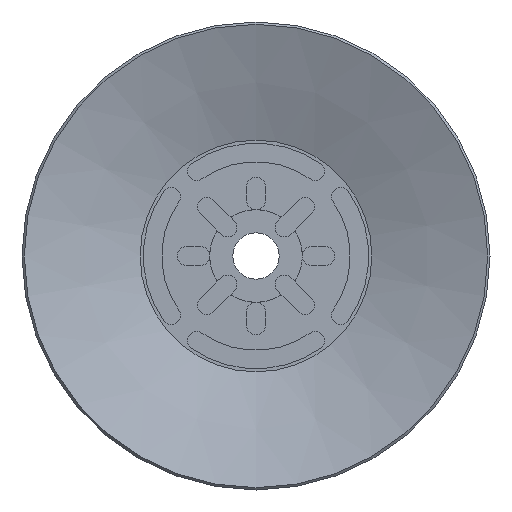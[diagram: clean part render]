
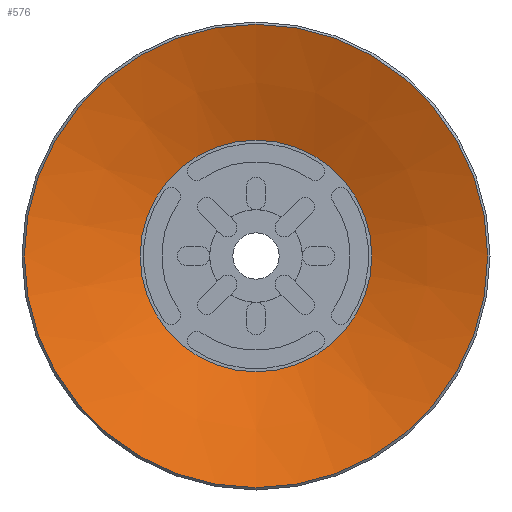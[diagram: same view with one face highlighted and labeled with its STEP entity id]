
A CAD part, front view. The second image highlights one B-rep face of the part: STEP entity #576.
In plain terms, the highlighted conical face has half-angle 70.201 degrees and reference radius 7.5 mm.
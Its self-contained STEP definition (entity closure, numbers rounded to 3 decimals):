
#576=ADVANCED_FACE('',(#921,#922),#923,.F.);
#921=FACE_BOUND('',#1335,.T.);
#922=FACE_OUTER_BOUND('',#1336,.T.);
#923=CONICAL_SURFACE('',#1337,7.5,1.225);
#1335=EDGE_LOOP('',(#2339));
#1336=EDGE_LOOP('',(#2340));
#1337=AXIS2_PLACEMENT_3D('',#2341,#2342,#2343);
#2339=ORIENTED_EDGE('',*,*,#3051,.F.);
#2340=ORIENTED_EDGE('',*,*,#3052,.T.);
#2341=CARTESIAN_POINT('',(0.0,0.0,2.7));
#2342=DIRECTION('',(0.0,0.,-1.0));
#2343=DIRECTION('',(0.0,1.0,0.));
#3051=EDGE_CURVE('',#3652,#3652,#3653,.T.);
#3052=EDGE_CURVE('',#3654,#3654,#3655,.T.);
#3652=VERTEX_POINT('',#4743);
#3653=CIRCLE('',#4744,7.5);
#3654=VERTEX_POINT('',#4745);
#3655=CIRCLE('',#4746,15.0);
#4743=CARTESIAN_POINT('',(0.0,7.5,2.7));
#4744=AXIS2_PLACEMENT_3D('',#5418,#5419,#5420);
#4745=CARTESIAN_POINT('',(0.0,15.0,0.));
#4746=AXIS2_PLACEMENT_3D('',#5421,#5422,#5423);
#5418=CARTESIAN_POINT('',(0.0,0.0,2.7));
#5419=DIRECTION('',(0.0,0.,-1.0));
#5420=DIRECTION('',(0.0,1.0,0.));
#5421=CARTESIAN_POINT('',(0.0,0.0,0.0));
#5422=DIRECTION('',(0.0,0.,-1.0));
#5423=DIRECTION('',(0.0,1.0,0.));
